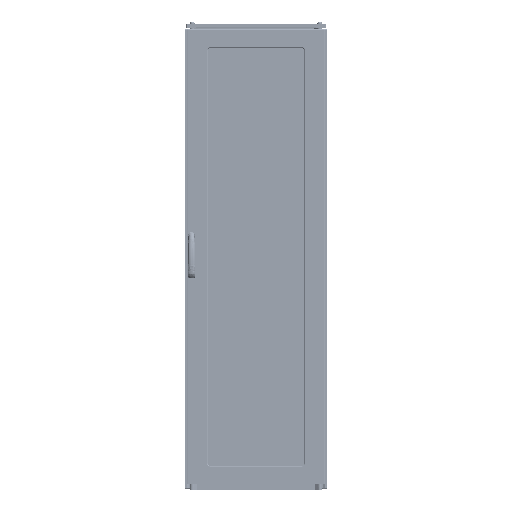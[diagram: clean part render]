
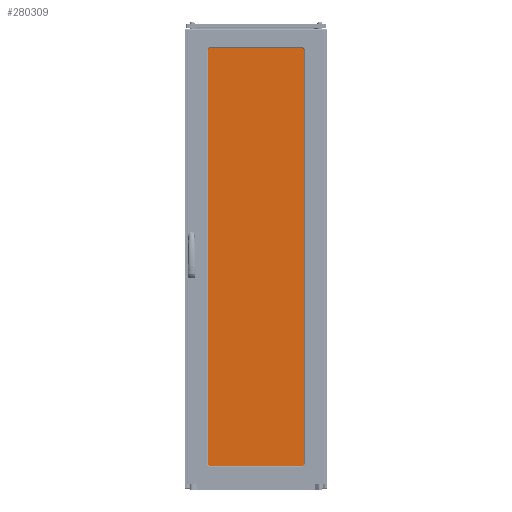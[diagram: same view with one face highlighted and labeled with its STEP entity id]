
A CAD part, top view. The second image highlights one B-rep face of the part: STEP entity #280309.
In plain terms, the highlighted planar face has unit normal (0, 0, 1).
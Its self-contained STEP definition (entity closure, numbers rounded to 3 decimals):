
#6452 = DIRECTION ( 'NONE',  ( 1., 0., 0. ) ) ;
#8570 = CARTESIAN_POINT ( 'NONE',  ( 1831., 0., 4. ) ) ;
#12727 = LINE ( 'NONE', #201280, #85851 ) ;
#17849 = VECTOR ( 'NONE', #99858, 1000. ) ;
#17848 = AXIS2_PLACEMENT_3D ( 'NONE', #55806, #103735, #292134 ) ;
#22001 = EDGE_CURVE ( 'NONE', #113995, #78213, #241328, .T. ) ;
#25898 = ORIENTED_EDGE ( 'NONE', *, *, #130314, .T. ) ;
#55806 = CARTESIAN_POINT ( 'NONE',  ( 0., -446., 4. ) ) ;
#73311 = VECTOR ( 'NONE', #184453, 1000. ) ;
#74431 = FACE_OUTER_BOUND ( 'NONE', #257160, .T. ) ;
#77625 = CARTESIAN_POINT ( 'NONE',  ( 0., -446., 4. ) ) ;
#78213 = VERTEX_POINT ( 'NONE', #121156 ) ;
#83895 = EDGE_CURVE ( 'NONE', #173700, #192369, #12727, .T. ) ;
#85851 = VECTOR ( 'NONE', #125618, 1000. ) ;
#91489 = CARTESIAN_POINT ( 'NONE',  ( 1831., 0., 4. ) ) ;
#99858 = DIRECTION ( 'NONE',  ( 0., 1., 0. ) ) ;
#103735 = DIRECTION ( 'NONE',  ( 0., 0., 1. ) ) ;
#110349 = CARTESIAN_POINT ( 'NONE',  ( 0., 0., 4. ) ) ;
#113995 = VERTEX_POINT ( 'NONE', #284319 ) ;
#121156 = CARTESIAN_POINT ( 'NONE',  ( 1831., -446., 4. ) ) ;
#125618 = DIRECTION ( 'NONE',  ( -1., 0., 0. ) ) ;
#130314 = EDGE_CURVE ( 'NONE', #192369, #113995, #135062, .T. ) ;
#135062 = LINE ( 'NONE', #110349, #73311 ) ;
#150619 = ORIENTED_EDGE ( 'NONE', *, *, #22001, .T. ) ;
#173700 = VERTEX_POINT ( 'NONE', #91489 ) ;
#174307 = EDGE_CURVE ( 'NONE', #78213, #173700, #243395, .T. ) ;
#174790 = PLANE ( 'NONE',  #17848 ) ;
#184453 = DIRECTION ( 'NONE',  ( 0., -1., 0. ) ) ;
#192369 = VERTEX_POINT ( 'NONE', #246994 ) ;
#201280 = CARTESIAN_POINT ( 'NONE',  ( 0., 0., 4. ) ) ;
#235751 = ORIENTED_EDGE ( 'NONE', *, *, #174307, .T. ) ;
#237436 = VECTOR ( 'NONE', #6452, 1000. ) ;
#241328 = LINE ( 'NONE', #77625, #237436 ) ;
#243395 = LINE ( 'NONE', #8570, #17849 ) ;
#246994 = CARTESIAN_POINT ( 'NONE',  ( 0., 0., 4. ) ) ;
#257160 = EDGE_LOOP ( 'NONE', ( #25898, #150619, #235751, #283061 ) ) ;
#280309 = ADVANCED_FACE ( 'NONE', ( #74431 ), #174790, .T. ) ;
#283061 = ORIENTED_EDGE ( 'NONE', *, *, #83895, .T. ) ;
#284319 = CARTESIAN_POINT ( 'NONE',  ( 0., -446., 4. ) ) ;
#292134 = DIRECTION ( 'NONE',  ( 1., 0., 0. ) ) ;
